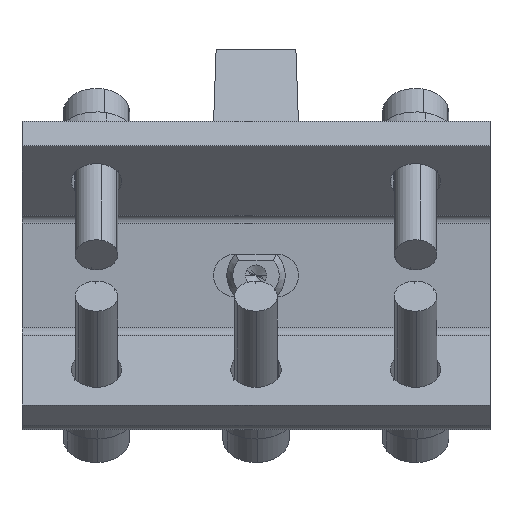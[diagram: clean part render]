
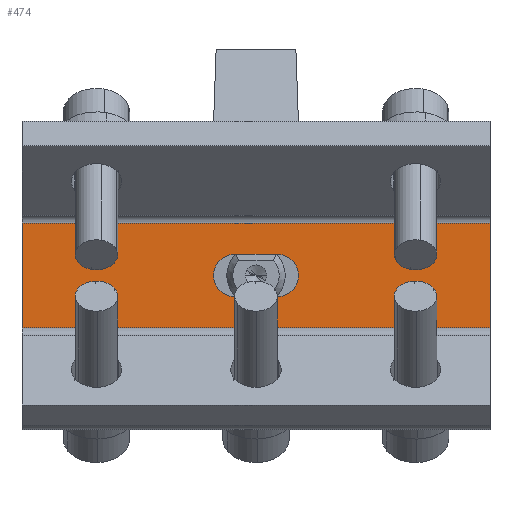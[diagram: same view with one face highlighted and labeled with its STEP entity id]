
A CAD part, front view. The second image highlights one B-rep face of the part: STEP entity #474.
In plain terms, the highlighted planar face has unit normal (0, -1, 0).
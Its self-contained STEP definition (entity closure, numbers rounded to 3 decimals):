
#474=ADVANCED_FACE('Solid.24',(#1104,#1105),#1106,.F.);
#1104=FACE_OUTER_BOUND('',#1937,.T.);
#1105=FACE_BOUND('',#1938,.T.);
#1106=PLANE('',#1939);
#1937=EDGE_LOOP('',(#3218,#3219,#3220,#3221));
#1938=EDGE_LOOP('',(#3222,#3223,#3224,#3225,#3226,#3227));
#1939=AXIS2_PLACEMENT_3D('',#3228,#3229,#3230);
#3218=ORIENTED_EDGE('',*,*,#5163,.T.);
#3219=ORIENTED_EDGE('',*,*,#5008,.T.);
#3220=ORIENTED_EDGE('',*,*,#5166,.F.);
#3221=ORIENTED_EDGE('',*,*,#5167,.F.);
#3222=ORIENTED_EDGE('',*,*,#5168,.F.);
#3223=ORIENTED_EDGE('',*,*,#4996,.T.);
#3224=ORIENTED_EDGE('',*,*,#5169,.T.);
#3225=ORIENTED_EDGE('',*,*,#5170,.F.);
#3226=ORIENTED_EDGE('',*,*,#5171,.T.);
#3227=ORIENTED_EDGE('',*,*,#5003,.T.);
#3228=CARTESIAN_POINT('',(0.0,25.5,9.855));
#3229=DIRECTION('',(0.0,1.0,0.0));
#3230=DIRECTION('',(0.0,0.0,-1.0));
#4996=EDGE_CURVE('',#6047,#6044,#6048,.T.);
#5003=EDGE_CURVE('',#6054,#6058,#6060,.T.);
#5008=EDGE_CURVE('',#6069,#6067,#6070,.T.);
#5163=EDGE_CURVE('',#6307,#6069,#6308,.T.);
#5166=EDGE_CURVE('',#6311,#6067,#6312,.F.);
#5167=EDGE_CURVE('',#6307,#6311,#6313,.T.);
#5168=EDGE_CURVE('',#6047,#6058,#6314,.T.);
#5169=EDGE_CURVE('',#6044,#6315,#6316,.T.);
#5170=EDGE_CURVE('',#6317,#6315,#6318,.T.);
#5171=EDGE_CURVE('',#6317,#6054,#6319,.T.);
#6044=VERTEX_POINT('',#7493);
#6047=VERTEX_POINT('',#7497);
#6048=CIRCLE('',#7498,4.0);
#6054=VERTEX_POINT('',#7505);
#6058=VERTEX_POINT('',#7510);
#6060=CIRCLE('',#7513,4.0);
#6067=VERTEX_POINT('',#7522);
#6069=VERTEX_POINT('',#7524);
#6070=LINE('',#7525,#7526);
#6307=VERTEX_POINT('',#7931);
#6308=LINE('',#7932,#7933);
#6311=VERTEX_POINT('',#7936);
#6312=LINE('',#7937,#7938);
#6313=LINE('',#7939,#7940);
#6314=LINE('',#7941,#7942);
#6315=VERTEX_POINT('',#7943);
#6316=CIRCLE('',#7944,4.0);
#6317=VERTEX_POINT('',#7945);
#6318=LINE('',#7946,#7947);
#6319=CIRCLE('',#7948,4.0);
#7493=CARTESIAN_POINT('',(-8.0,25.5,0.));
#7497=CARTESIAN_POINT('',(-4.0,25.5,-4.0));
#7498=AXIS2_PLACEMENT_3D('',#9174,#9175,#9176);
#7505=CARTESIAN_POINT('',(8.0,25.5,0.));
#7510=CARTESIAN_POINT('',(4.0,25.5,-4.0));
#7513=AXIS2_PLACEMENT_3D('',#9186,#9187,#9188);
#7522=CARTESIAN_POINT('',(-44.0,25.5,-9.855));
#7524=CARTESIAN_POINT('',(-44.0,25.5,9.855));
#7525=CARTESIAN_POINT('',(-44.0,25.5,0.));
#7526=VECTOR('',#9194,1.0);
#7931=CARTESIAN_POINT('',(44.0,25.5,9.855));
#7932=CARTESIAN_POINT('',(0.0,25.5,9.855));
#7933=VECTOR('',#9437,1.0);
#7936=CARTESIAN_POINT('',(44.0,25.5,-9.855));
#7937=CARTESIAN_POINT('',(0.0,25.5,-9.855));
#7938=VECTOR('',#9441,1.0);
#7939=CARTESIAN_POINT('',(44.0,25.5,0.));
#7940=VECTOR('',#9442,1.0);
#7941=CARTESIAN_POINT('',(0.0,25.5,-4.0));
#7942=VECTOR('',#9443,1.0);
#7943=CARTESIAN_POINT('',(-4.,25.5,4.0));
#7944=AXIS2_PLACEMENT_3D('',#9444,#9445,#9446);
#7945=CARTESIAN_POINT('',(4.0,25.5,4.0));
#7946=CARTESIAN_POINT('',(0.0,25.5,4.0));
#7947=VECTOR('',#9447,1.0);
#7948=AXIS2_PLACEMENT_3D('',#9448,#9449,#9450);
#9174=CARTESIAN_POINT('',(-4.0,25.5,0.0));
#9175=DIRECTION('',(0.0,1.0,0.0));
#9176=DIRECTION('',(0.0,0.0,-1.0));
#9186=CARTESIAN_POINT('',(4.0,25.5,0.));
#9187=DIRECTION('',(0.0,1.0,0.0));
#9188=DIRECTION('',(0.0,0.0,-1.0));
#9194=DIRECTION('',(0.0,0.0,-1.0));
#9437=DIRECTION('',(-1.0,0.0,0.0));
#9441=DIRECTION('',(1.0,0.0,0.0));
#9442=DIRECTION('',(0.0,0.0,-1.0));
#9443=DIRECTION('',(1.0,0.0,0.0));
#9444=CARTESIAN_POINT('',(-4.0,25.5,0.0));
#9445=DIRECTION('',(0.0,1.0,0.0));
#9446=DIRECTION('',(0.0,0.0,-1.0));
#9447=DIRECTION('',(-1.0,0.0,0.0));
#9448=CARTESIAN_POINT('',(4.0,25.5,0.));
#9449=DIRECTION('',(0.0,1.0,0.0));
#9450=DIRECTION('',(0.0,0.0,-1.0));
